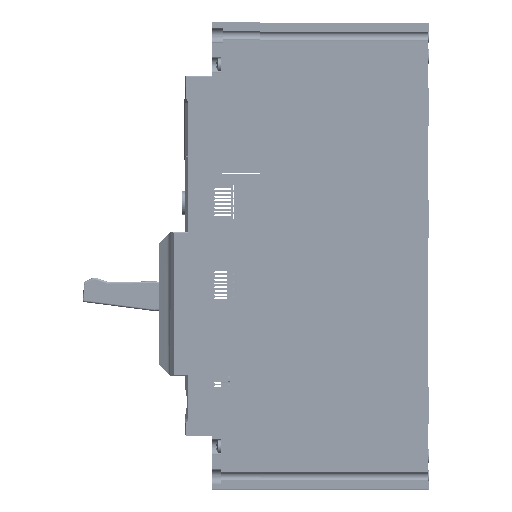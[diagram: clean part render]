
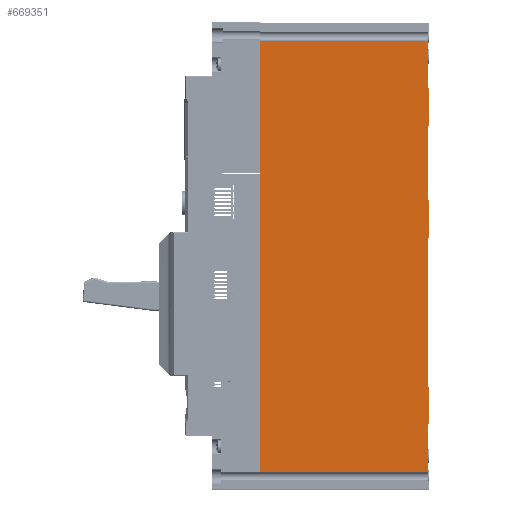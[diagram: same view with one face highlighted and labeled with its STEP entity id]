
A CAD part, left-side view. The second image highlights one B-rep face of the part: STEP entity #669351.
In plain terms, the highlighted planar face has unit normal (-1, 0, 0).
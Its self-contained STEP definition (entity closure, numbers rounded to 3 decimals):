
#32935 = EDGE_CURVE ( 'NONE', #60916, #652006, #84665, .T. ) ;
#53868 = EDGE_CURVE ( 'NONE', #329877, #618150, #466497, .T. ) ;
#60916 = VERTEX_POINT ( 'NONE', #370719 ) ;
#62638 = DIRECTION ( 'NONE',  ( 0., 0., 1. ) ) ;
#73037 = DIRECTION ( 'NONE',  ( 0., 1., 0. ) ) ;
#81297 = LINE ( 'NONE', #855299, #195561 ) ;
#81973 = DIRECTION ( 'NONE',  ( 0., 1., 0. ) ) ;
#84665 = LINE ( 'NONE', #495406, #292935 ) ;
#84689 = ORIENTED_EDGE ( 'NONE', *, *, #834135, .T. ) ;
#102019 = ORIENTED_EDGE ( 'NONE', *, *, #770865, .T. ) ;
#103655 = VECTOR ( 'NONE', #776041, 1000. ) ;
#107854 = DIRECTION ( 'NONE',  ( 0., 0., 1. ) ) ;
#122816 = EDGE_CURVE ( 'NONE', #640032, #511580, #427157, .T. ) ;
#125089 = DIRECTION ( 'NONE',  ( 0., 1., 0. ) ) ;
#126718 = EDGE_CURVE ( 'NONE', #60916, #799048, #254050, .T. ) ;
#128468 = VECTOR ( 'NONE', #852466, 1000. ) ;
#131016 = EDGE_CURVE ( 'NONE', #147036, #814817, #745762, .T. ) ;
#133294 = DIRECTION ( 'NONE',  ( 0., 1., 0. ) ) ;
#135327 = CARTESIAN_POINT ( 'NONE',  ( -74.45, -70.982, 89.559 ) ) ;
#145772 = VERTEX_POINT ( 'NONE', #309024 ) ;
#147036 = VERTEX_POINT ( 'NONE', #840452 ) ;
#149615 = DIRECTION ( 'NONE',  ( 0., 1., 0. ) ) ;
#175712 = AXIS2_PLACEMENT_3D ( 'NONE', #639003, #780514, #81973 ) ;
#179521 = CARTESIAN_POINT ( 'NONE',  ( -74.45, 19.018, 80.059 ) ) ;
#180736 = ORIENTED_EDGE ( 'NONE', *, *, #878657, .T. ) ;
#184449 = DIRECTION ( 'NONE',  ( 0., 0., -1. ) ) ;
#187183 = CARTESIAN_POINT ( 'NONE',  ( -74.45, -71.482, -105.441 ) ) ;
#187402 = VECTOR ( 'NONE', #930459, 1000. ) ;
#191176 = LINE ( 'NONE', #483578, #440972 ) ;
#195561 = VECTOR ( 'NONE', #62638, 1000. ) ;
#200731 = VECTOR ( 'NONE', #184449, 1000. ) ;
#202715 = EDGE_CURVE ( 'NONE', #652006, #511580, #210760, .T. ) ;
#205146 = CARTESIAN_POINT ( 'NONE',  ( -74.45, -70.982, 89.559 ) ) ;
#208687 = ORIENTED_EDGE ( 'NONE', *, *, #53868, .T. ) ;
#210760 = LINE ( 'NONE', #135327, #128468 ) ;
#215803 = CARTESIAN_POINT ( 'NONE',  ( -74.45, -71.482, -105.441 ) ) ;
#219168 = CARTESIAN_POINT ( 'NONE',  ( -74.45, -71.482, 54.559 ) ) ;
#233588 = VERTEX_POINT ( 'NONE', #836388 ) ;
#245007 = CARTESIAN_POINT ( 'NONE',  ( -74.45, -70.982, 89.559 ) ) ;
#247803 = DIRECTION ( 'NONE',  ( 0., 1., 0. ) ) ;
#254050 = LINE ( 'NONE', #395468, #408075 ) ;
#254976 = EDGE_CURVE ( 'NONE', #916877, #799048, #571887, .T. ) ;
#255465 = VECTOR ( 'NONE', #869353, 1000. ) ;
#258192 = DIRECTION ( 'NONE',  ( 0., 0., -1. ) ) ;
#264288 = VECTOR ( 'NONE', #258192, 1000. ) ;
#273545 = VERTEX_POINT ( 'NONE', #677703 ) ;
#275104 = LINE ( 'NONE', #576619, #487274 ) ;
#278887 = ORIENTED_EDGE ( 'NONE', *, *, #202715, .T. ) ;
#280150 = VECTOR ( 'NONE', #73037, 1000. ) ;
#292935 = VECTOR ( 'NONE', #315806, 1000. ) ;
#305348 = LINE ( 'NONE', #215803, #640673 ) ;
#309024 = CARTESIAN_POINT ( 'NONE',  ( -74.45, -71.482, 34.559 ) ) ;
#311034 = VERTEX_POINT ( 'NONE', #219168 ) ;
#315806 = DIRECTION ( 'NONE',  ( 0., -1., 0. ) ) ;
#316831 = CARTESIAN_POINT ( 'NONE',  ( -74.45, -70.982, -150.941 ) ) ;
#318932 = CARTESIAN_POINT ( 'NONE',  ( -74.45, -70.982, 80.059 ) ) ;
#319656 = LINE ( 'NONE', #187183, #264288 ) ;
#321581 = CARTESIAN_POINT ( 'NONE',  ( -74.45, -71.482, 54.559 ) ) ;
#329877 = VERTEX_POINT ( 'NONE', #714322 ) ;
#332618 = CARTESIAN_POINT ( 'NONE',  ( -74.45, -71.482, -25.441 ) ) ;
#342705 = EDGE_CURVE ( 'NONE', #311034, #145772, #609148, .T. ) ;
#349338 = ORIENTED_EDGE ( 'NONE', *, *, #408684, .F. ) ;
#359446 = ORIENTED_EDGE ( 'NONE', *, *, #122816, .F. ) ;
#370719 = CARTESIAN_POINT ( 'NONE',  ( -74.45, 19.018, -150.941 ) ) ;
#380273 = ORIENTED_EDGE ( 'NONE', *, *, #254976, .T. ) ;
#395468 = CARTESIAN_POINT ( 'NONE',  ( -74.45, 19.018, 89.559 ) ) ;
#397883 = CARTESIAN_POINT ( 'NONE',  ( -74.45, -70.982, -5.441 ) ) ;
#408075 = VECTOR ( 'NONE', #475478, 1000. ) ;
#408684 = EDGE_CURVE ( 'NONE', #814817, #618150, #606152, .T. ) ;
#417174 = CARTESIAN_POINT ( 'NONE',  ( -74.45, -70.982, -25.441 ) ) ;
#426222 = LINE ( 'NONE', #581650, #255465 ) ;
#427157 = LINE ( 'NONE', #724129, #280150 ) ;
#440972 = VECTOR ( 'NONE', #125089, 1000. ) ;
#466497 = LINE ( 'NONE', #245007, #517950 ) ;
#467338 = DIRECTION ( 'NONE',  ( 0., 0., -1. ) ) ;
#475478 = DIRECTION ( 'NONE',  ( 0., 0., 1. ) ) ;
#483578 = CARTESIAN_POINT ( 'NONE',  ( -74.45, -71.482, 34.559 ) ) ;
#484935 = EDGE_LOOP ( 'NONE', ( #777219, #551411, #278887, #359446, #733940, #742148, #208687, #349338, #649672, #102019, #904701, #807358, #783612, #180736, #84689, #380273 ) ) ;
#487274 = VECTOR ( 'NONE', #133294, 1000. ) ;
#495406 = CARTESIAN_POINT ( 'NONE',  ( -74.45, -81.718, -150.941 ) ) ;
#497356 = FACE_OUTER_BOUND ( 'NONE', #484935, .T. ) ;
#506586 = PLANE ( 'NONE',  #175712 ) ;
#507290 = VECTOR ( 'NONE', #467338, 1000. ) ;
#511580 = VERTEX_POINT ( 'NONE', #657188 ) ;
#517950 = VECTOR ( 'NONE', #107854, 1000. ) ;
#534428 = VERTEX_POINT ( 'NONE', #397883 ) ;
#551411 = ORIENTED_EDGE ( 'NONE', *, *, #32935, .T. ) ;
#571887 = LINE ( 'NONE', #713531, #187402 ) ;
#576619 = CARTESIAN_POINT ( 'NONE',  ( -74.45, -71.482, 54.559 ) ) ;
#577738 = EDGE_CURVE ( 'NONE', #273545, #640032, #319656, .T. ) ;
#581650 = CARTESIAN_POINT ( 'NONE',  ( -74.45, -71.482, -5.441 ) ) ;
#596005 = EDGE_CURVE ( 'NONE', #273545, #329877, #305348, .T. ) ;
#597918 = VERTEX_POINT ( 'NONE', #845111 ) ;
#606152 = LINE ( 'NONE', #332618, #798790 ) ;
#609148 = LINE ( 'NONE', #321581, #200731 ) ;
#613461 = CARTESIAN_POINT ( 'NONE',  ( -74.45, -71.482, -5.441 ) ) ;
#618150 = VERTEX_POINT ( 'NONE', #417174 ) ;
#629874 = EDGE_CURVE ( 'NONE', #534428, #233588, #634512, .T. ) ;
#634512 = LINE ( 'NONE', #205146, #103655 ) ;
#639003 = CARTESIAN_POINT ( 'NONE',  ( -74.45, 19.018, 89.559 ) ) ;
#640032 = VERTEX_POINT ( 'NONE', #926556 ) ;
#640673 = VECTOR ( 'NONE', #149615, 1000. ) ;
#649672 = ORIENTED_EDGE ( 'NONE', *, *, #131016, .F. ) ;
#652006 = VERTEX_POINT ( 'NONE', #316831 ) ;
#657188 = CARTESIAN_POINT ( 'NONE',  ( -74.45, -70.982, -125.441 ) ) ;
#669351 = ADVANCED_FACE ( 'NONE', ( #497356 ), #506586, .F. ) ;
#677703 = CARTESIAN_POINT ( 'NONE',  ( -74.45, -71.482, -105.441 ) ) ;
#713531 = CARTESIAN_POINT ( 'NONE',  ( -74.45, -81.718, 80.059 ) ) ;
#714322 = CARTESIAN_POINT ( 'NONE',  ( -74.45, -70.982, -105.441 ) ) ;
#724129 = CARTESIAN_POINT ( 'NONE',  ( -74.45, -71.482, -125.441 ) ) ;
#733940 = ORIENTED_EDGE ( 'NONE', *, *, #577738, .F. ) ;
#742148 = ORIENTED_EDGE ( 'NONE', *, *, #596005, .T. ) ;
#745762 = LINE ( 'NONE', #613461, #507290 ) ;
#770865 = EDGE_CURVE ( 'NONE', #147036, #534428, #426222, .T. ) ;
#776041 = DIRECTION ( 'NONE',  ( 0., 0., 1. ) ) ;
#777219 = ORIENTED_EDGE ( 'NONE', *, *, #126718, .F. ) ;
#780514 = DIRECTION ( 'NONE',  ( 1., 0., 0. ) ) ;
#783612 = ORIENTED_EDGE ( 'NONE', *, *, #342705, .F. ) ;
#798790 = VECTOR ( 'NONE', #247803, 1000. ) ;
#799048 = VERTEX_POINT ( 'NONE', #179521 ) ;
#801666 = CARTESIAN_POINT ( 'NONE',  ( -74.45, -71.482, -25.441 ) ) ;
#807358 = ORIENTED_EDGE ( 'NONE', *, *, #896714, .F. ) ;
#814817 = VERTEX_POINT ( 'NONE', #801666 ) ;
#834135 = EDGE_CURVE ( 'NONE', #597918, #916877, #81297, .T. ) ;
#836388 = CARTESIAN_POINT ( 'NONE',  ( -74.45, -70.982, 34.559 ) ) ;
#840452 = CARTESIAN_POINT ( 'NONE',  ( -74.45, -71.482, -5.441 ) ) ;
#845111 = CARTESIAN_POINT ( 'NONE',  ( -74.45, -70.982, 54.559 ) ) ;
#852466 = DIRECTION ( 'NONE',  ( 0., 0., 1. ) ) ;
#855299 = CARTESIAN_POINT ( 'NONE',  ( -74.45, -70.982, 89.559 ) ) ;
#869353 = DIRECTION ( 'NONE',  ( 0., 1., 0. ) ) ;
#878657 = EDGE_CURVE ( 'NONE', #311034, #597918, #275104, .T. ) ;
#896714 = EDGE_CURVE ( 'NONE', #145772, #233588, #191176, .T. ) ;
#904701 = ORIENTED_EDGE ( 'NONE', *, *, #629874, .T. ) ;
#916877 = VERTEX_POINT ( 'NONE', #318932 ) ;
#926556 = CARTESIAN_POINT ( 'NONE',  ( -74.45, -71.482, -125.441 ) ) ;
#930459 = DIRECTION ( 'NONE',  ( 0., 1., 0. ) ) ;
